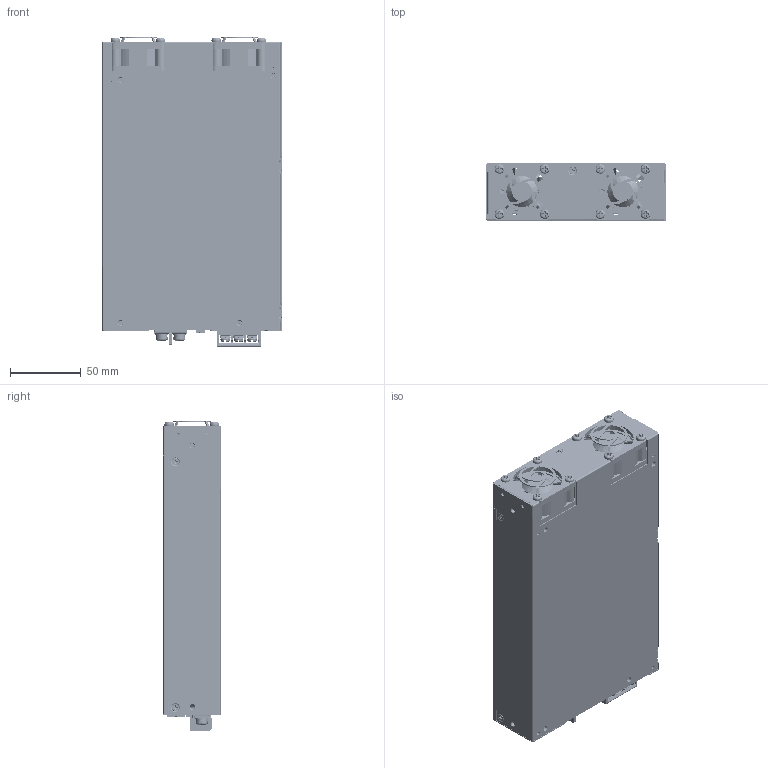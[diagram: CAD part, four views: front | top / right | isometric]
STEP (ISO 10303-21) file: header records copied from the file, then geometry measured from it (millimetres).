
FILE_DESCRIPTION (( 'STEP AP214' ), '1' );
FILE_NAME ('PMS-XV1K2W1BTX 3D 20251127.STEP', '2025-12-01T12:46:14', ( '' ), ( '' ), 'SwSTEP 2.0', 'SolidWorks 2020', '' );
FILE_SCHEMA (( 'AUTOMOTIVE_DESIGN' ));
Length unit declared in the file: millimetre
Products named in the file (74): TDC-587_1-50553_1_1; VR131_1_1_1; CHASSIS_1_1-398838_1_1; HSK_2_1_1_1; INSULATOR_9_1_1_1; D10_1_1_1; Q102_Q101_D101_1_1_1; OUT_TERMINAL_1_1_1; HSK2_1-158528_1_1; HSK2_1-158538_1_1; HSK1_1-149000_1_1; F401_1_1_1; CAP_3244081600_1_1_1; KBJ2506__BD1__1_1_1_1; HSK_1_1_1_1; MEB-1K2A__1; TDC-588_1_1_1; 878331025_1_1_1; 3620479111_2_1_1_1; A2008WR0-4P_1_1_1; HSK4_1-170715_1_1; C117_1_1_1; HSK3_1-166744_1_1; PIN001_1_1_1; PLASTIC_1_1_1; CH1_1_1_1; HSK4_1-170727_1_1; 朴3_SPRING_WASHER_1_1_1; Q5_Q6_1_1_1; 3377336200; MEB-1K1A24T_AAA_1_1_1; PMS-XV1K2W1BTX 3D 20251127; 878331421_1_1_1; INSULATOR_8_1_1_1; 337-down x1; FAN_40X40X20_1_1_1; PIN004_1_1_1; HSK1_1-149010_1_1; PWB_1100W_1_1_1; INSULATOR_7_1_1_1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
Assembly tree (163 placements, depth 8):
  PMS-XV1K2W1BTX 3D 20251127
    case
      337-down x1
        CHASSIS_1_1-398838_1_1
        STANDOFF_M3X4_1_1_1  x4
      3377336200
    PCB
      MEB-1K2A__1
        MEB-1K1A24T_AAA_1_1_1
          CH1_1_1_1
            PWB_1100W_1_1_1
            TDC-587_1-50563_1_1
              TDC-587_1-50553_1_1
              A2008WR0-4P_1_1_1  x2
              878331025_1_1_1
              878331421_1_1_1
              A2003WR0-1BX26PA-6T_1_1_1
            C112_1_1_1  x6
            C117_1_1_1
            C5_C6_C15_1_1_1  x3
            CY_1_1_1  x8
            OUT_TERMINAL_1_1_1  x2
            HSK_1_1_1_1
              HSK1_1-149010_1_1
                HSK1_1-149000_1_1
                PIN001_1_1_1
                PIN004_1_1_1
              KBJ2506__BD1__1_1_1_1  x2
              HEX_NUT_STYLE_1_GRADEAB_DIN_H_1  x2
              M3X9_1_1_1  x2
            HSK_2_1_1_1
              HSK2_1-158538_1_1
                HSK2_1-158528_1_1
                PIN001_1_1_1
                PIN004_1_1_1
              Q3_Q4_1_1_1  x2
              D10_1_1_1  x2
              HEX_NUT_STYLE_1_GRADEAB_DIN_H_1  x4
              CAP_3244081600_1_1_1  x2
              BRACKET_3421267000_1_1_1  x2
            HSK_3_1_1_1
              HSK3_1-166744_1_1
                HSK3_1-166735_1_1
                PIN001_1_1_1  x2
              Q3_Q4_1_1_1  x2
              D10_1_1_1  x2
              M3X9_1_1_1  x4
              HEX_NUT_STYLE_1_GRADEAB_DIN_H_1  x4
            HSK_4_1_1_1
              HSK4_1-170727_1_1
                HSK4_1-170715_1_1
                PIN001_1_1_1  x2
              Q102_Q101_D101_1_1_1  x4
              M3X9_1_1_1  x4
              HEX_NUT_STYLE_1_GRADEAB_DIN_H_1  x4
            INSULATOR_7_1_1_1
            INSULATOR_8_1_1_1
            Q5_Q6_1_1_1
            Z1_1_1_1
            F401_1_1_1
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Bounding box: 127 x 40.5 x 219.7 mm (x, y, z)
Volume: 193194.8 mm3; surface area: 449146.7 mm2
Topology: 113 solids, 176 shells, 8042 faces, 21444 edges, 13966 vertices
Faces by surface type: plane 5020, cylinder 1981, bspline 652, cone 345, torus 44
Full cylindrical faces by diameter (mm): 0.5 x51, 0.6 x16, 0.687 x16, 0.725 x3, 0.775 x6, 0.8 x62, 0.85 x63, 0.875 x10, 0.9 x41, 0.925 x20, 0.95 x6, 1 x11, 1.062 x4, 1.1 x4, 1.15 x12, 1.2 x2, 1.225 x2, 1.4 x2, 1.6 x18, 1.8 x3, 2.1 x16, 2.2 x1, 2.4 x4, 2.459 x10, 2.5 x53, 2.825 x8, 3 x105, 3.1 x4, 3.2 x17, 3.3 x16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
Entity records: 235381 total; most frequent: CARTESIAN_POINT 74815, ORIENTED_EDGE 27524, DIRECTION 24048, EDGE_CURVE 13792, VERTEX_POINT 9404, VECTOR 8918, LINE 8918, AXIS2_PLACEMENT_3D 7565
